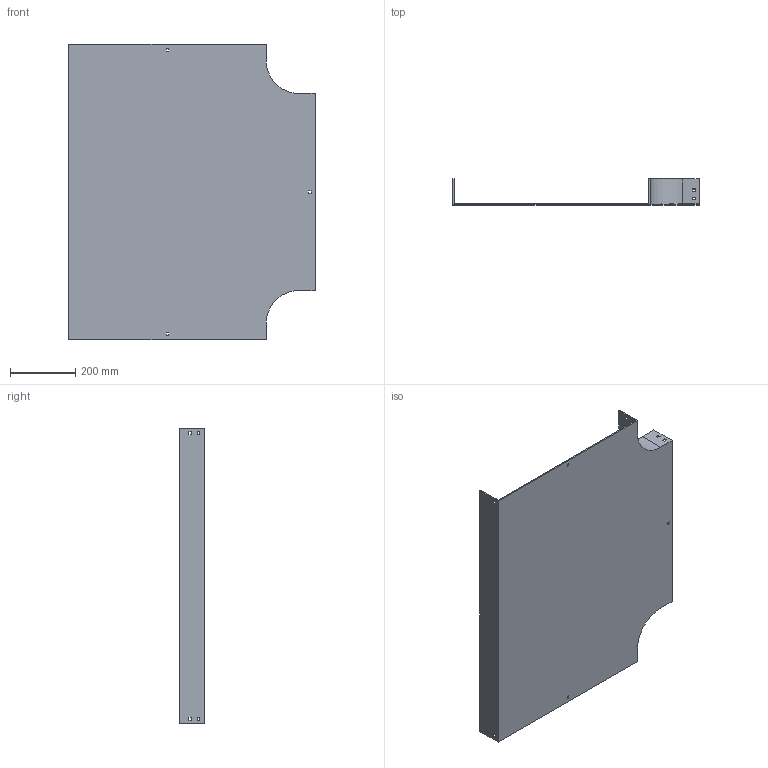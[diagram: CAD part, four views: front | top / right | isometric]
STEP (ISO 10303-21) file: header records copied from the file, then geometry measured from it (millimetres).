
FILE_DESCRIPTION (( 'STEP AP214' ), '1' );
FILE_NAME ('15B1C600.step', '2025-02-21T09:55:31', ( '' ), ( '' ), 'SwSTEP 2.0', 'SolidWorks 2023', '' );
FILE_SCHEMA (( 'AUTOMOTIVE_DESIGN' ));
Length unit declared in the file: millimetre
Products named in the file (1): 15B1C600
Bounding box: 754 x 79 x 904 mm (x, y, z)
Volume: 2615825.3 mm3; surface area: 1509401.8 mm2
Topology: 1 solids, 1 shells, 82 faces, 240 edges, 160 vertices
Faces by surface type: plane 78, cylinder 4
Entity records: 2755 total; most frequent: CARTESIAN_POINT 483, ORIENTED_EDGE 480, DIRECTION 414, EDGE_CURVE 240, VECTOR 232, LINE 232, VERTEX_POINT 160, EDGE_LOOP 112
